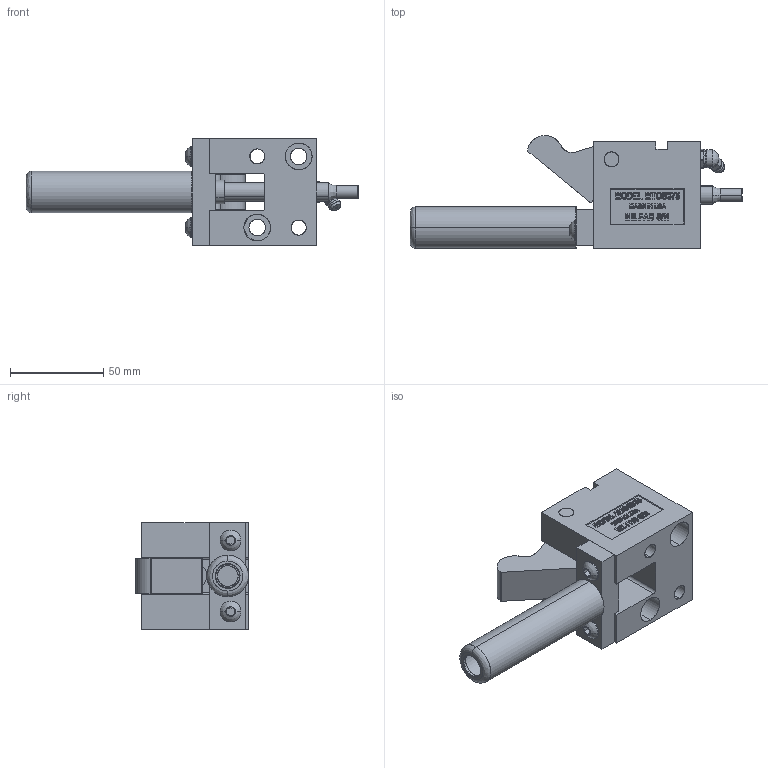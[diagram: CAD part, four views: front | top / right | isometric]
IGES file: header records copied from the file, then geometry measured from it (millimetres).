
Start section: SolidWorks IGES file using analytic representation for surfaces
Global section: file name: Y:\METRIC With OFFSETRIGGER\TOPMOUNT\MTOS37545\OPEN\MTOS37545-O.IGS; native system: SolidWorks 2006 by SolidWorks Corporation; preprocessor: SolidWorks 2006 by SolidWorks Corporation; author: Jim; date: 090121.132544; units: inch
Bounding box: 177.8 x 60.44 x 57.15 mm (x, y, z)
Surface area: 58356.5 mm2 (no closed solid volume)
Topology: 0 solids, 0 shells, 601 faces, 7251 edges, 7247 vertices
Faces by surface type: bspline 485, revolution 116
